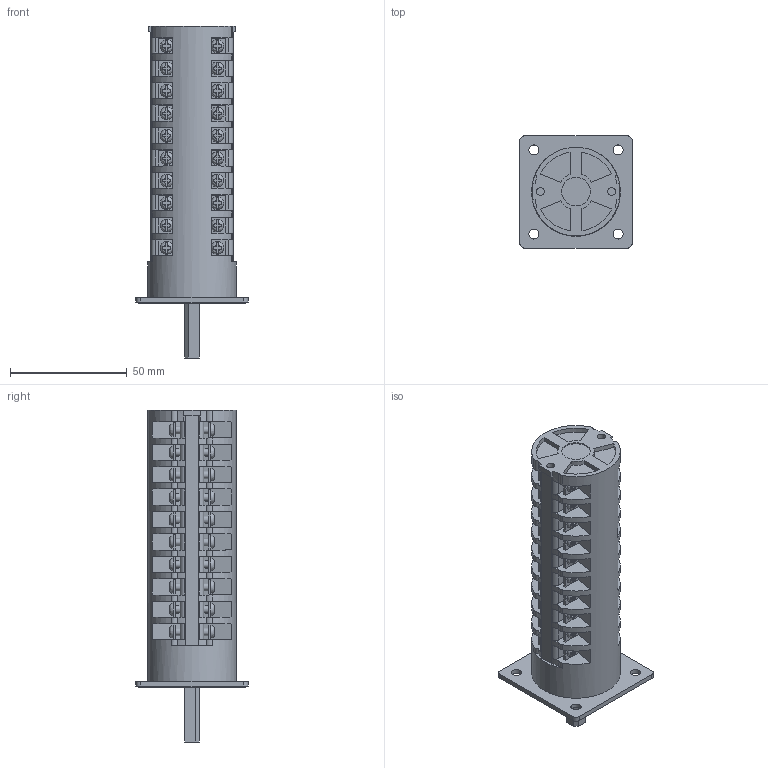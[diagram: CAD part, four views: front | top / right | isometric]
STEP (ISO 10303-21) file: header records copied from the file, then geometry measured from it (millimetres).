
FILE_DESCRIPTION(/* description */ (''),/* implementation_level */ '2;1');
FILE_NAME(/* name */ '4G10-U_standard_10_korpusow.stp',/* time_stamp */ '2021-07-21T08:00:04+02:00',/* author */ (''),/* organization */ (''),/* preprocessor_version */ 'ST-DEVELOPER v18.1',/* originating_system */ 'SIEMENS PLM Software NX 1965',/* authorisation */ '');
FILE_SCHEMA (('AUTOMOTIVE_DESIGN { 1 0 10303 214 3 1 1 1 }'));
Length unit declared in the file: millimetre
Products named in the file (1): 4G10-U_standard_10_korpusow_stp
Bounding box: 48 x 48 x 142.1 mm (x, y, z)
Volume: 111034.8 mm3; surface area: 37180.6 mm2
Topology: 1 solids, 1 shells, 1313 faces, 3634 edges, 2428 vertices
Faces by surface type: plane 1086, cylinder 185, bspline 40, torus 2
Full cylindrical faces by diameter (mm): 3.2 x40, 3.4 x3, 4.3 x4, 6.2 x2, 7.2 x4, 12.3 x1, 16.2 x1, 16.8 x1, 38 x1
Entity records: 41923 total; most frequent: CARTESIAN_POINT 9393, ORIENTED_EDGE 6894, DIRECTION 6413, EDGE_CURVE 3447, VERTEX_POINT 2340, LINE 2221, VECTOR 2221, AXIS2_PLACEMENT_3D 2096
